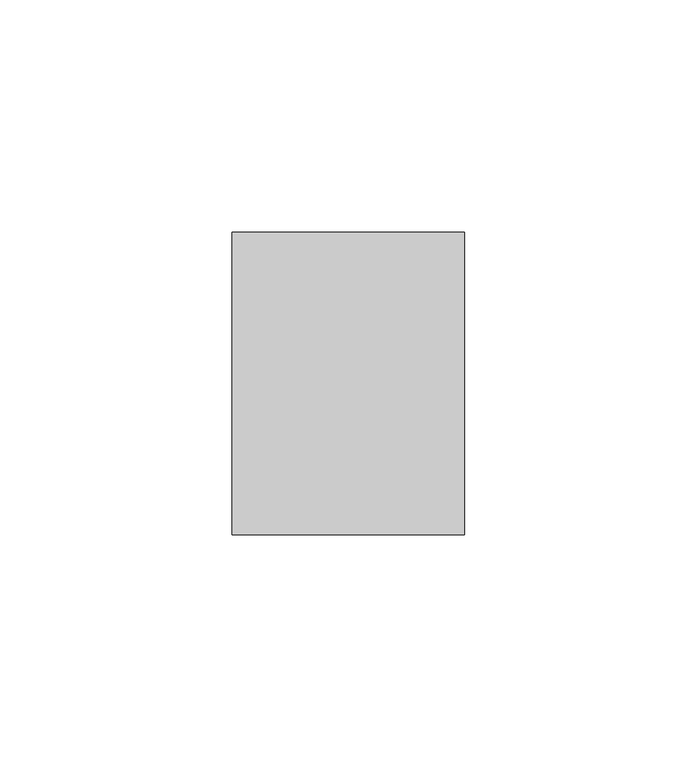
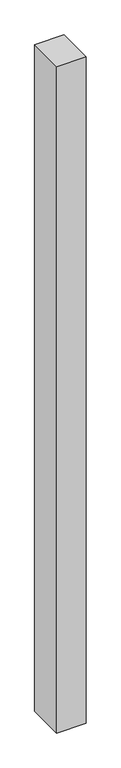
"""IFC4 building model written with IfcOpenShell, lengths in millimetres: member geometry, Прямоугольный импост : 50 мм x 65 мм."""

from ifc_helpers import new_model, si_unit, frame, origin, place, context, project, spatial, polyline, outline, extrude, source, transform, mapped, element, save


def member_019d2a25(model_context):
    return source(origin(), model_context, "Body", "SweptSolid", [
        extrude(outline(polyline([(0.0, 32.5), (0.0, -32.5), (-50.0, -32.5), (-50.0, 32.5), (0.0, 32.5)])), frame((0.0, 0.0, -1200.0), z_axis=(0.0, 0.0, 1.0), x_axis=(1.0, 0.0, 0.0)), (0.0, 0.0, 1.0), 1200.0),
    ])


if __name__ == "__main__":
    model = new_model("IFC4")
    model_context = context("Model", 3, world=origin())
    ifc_project = project(units=[si_unit("LENGTHUNIT", "METRE", prefix="MILLI")], contexts=[model_context])
    site = spatial("IfcSite", under=ifc_project)
    building = spatial("IfcBuilding", under=site)
    placement = place(None, origin())
    member_shape = member_019d2a25(model_context)
    element("IfcMember", 1, ObjectType="Прямоугольный импост : 50 мм x 65 мм", at=placement, inside=building, context=model_context, shape_type="MappedRepresentation", body=[
        mapped(member_shape, transform((0.0, 0.0, 0.0), x_axis=(1.0, 0.0, 0.0), y_axis=(0.0, 1.0, 0.0), z_axis=(0.0, 0.0, 1.0))),
    ])
    save(model, "model.ifc")
